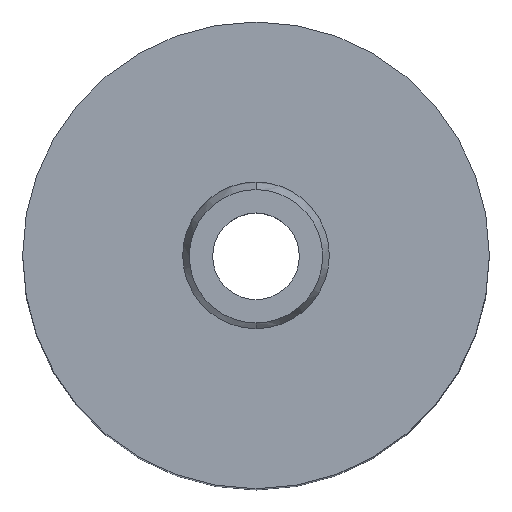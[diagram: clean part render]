
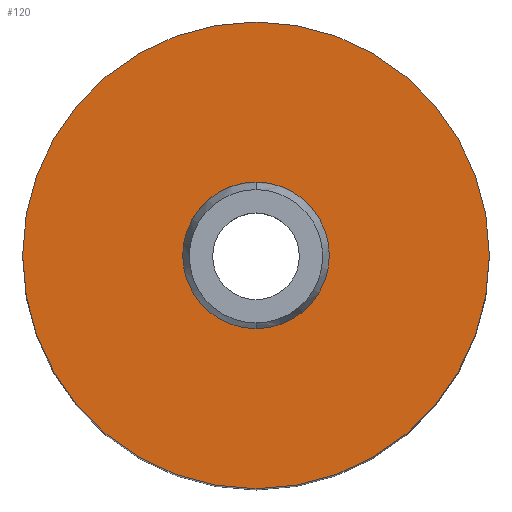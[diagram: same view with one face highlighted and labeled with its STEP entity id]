
A CAD part, top view. The second image highlights one B-rep face of the part: STEP entity #120.
In plain terms, the highlighted planar face has unit normal (0, 0, 1).
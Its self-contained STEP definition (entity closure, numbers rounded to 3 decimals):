
#104=PLANE('',#373);
#109=FACE_BOUND('',#163,.T.);
#110=FACE_BOUND('',#164,.T.);
#120=ADVANCED_FACE('',(#109,#110),#104,.T.);
#163=EDGE_LOOP('',(#221,#222));
#164=EDGE_LOOP('',(#223,#224));
#180=CIRCLE('',#361,35.);
#181=CIRCLE('',#363,35.);
#185=CIRCLE('',#369,11.);
#186=CIRCLE('',#371,11.);
#221=ORIENTED_EDGE('',*,*,#298,.F.);
#222=ORIENTED_EDGE('',*,*,#299,.F.);
#223=ORIENTED_EDGE('',*,*,#306,.T.);
#224=ORIENTED_EDGE('',*,*,#304,.T.);
#273=VERTEX_POINT('',#498);
#276=VERTEX_POINT('',#503);
#279=VERTEX_POINT('',#515);
#280=VERTEX_POINT('',#517);
#298=EDGE_CURVE('',#276,#273,#180,.T.);
#299=EDGE_CURVE('',#273,#276,#181,.T.);
#304=EDGE_CURVE('',#280,#279,#185,.T.);
#306=EDGE_CURVE('',#279,#280,#186,.T.);
#361=AXIS2_PLACEMENT_3D('',#504,#406,#407);
#363=AXIS2_PLACEMENT_3D('',#506,#410,#411);
#369=AXIS2_PLACEMENT_3D('',#516,#423,#424);
#371=AXIS2_PLACEMENT_3D('',#520,#428,#429);
#373=AXIS2_PLACEMENT_3D('',#522,#432,#433);
#406=DIRECTION('',(0.,0.,-1.));
#407=DIRECTION('',(1.,0.,0.));
#410=DIRECTION('',(0.,0.,-1.));
#411=DIRECTION('',(-1.,0.,0.));
#423=DIRECTION('',(0.,0.,-1.));
#424=DIRECTION('',(1.,0.,0.));
#428=DIRECTION('',(0.,0.,-1.));
#429=DIRECTION('',(-1.,0.,0.));
#432=DIRECTION('',(0.,0.,1.));
#433=DIRECTION('',(-1.,0.,0.));
#498=CARTESIAN_POINT('',(0.,35.,110.));
#503=CARTESIAN_POINT('',(0.,-35.,110.));
#504=CARTESIAN_POINT('',(0.,0.,110.));
#506=CARTESIAN_POINT('',(0.,0.,110.));
#515=CARTESIAN_POINT('',(0.,11.,110.));
#516=CARTESIAN_POINT('',(0.,0.,110.));
#517=CARTESIAN_POINT('',(0.,-11.,110.));
#520=CARTESIAN_POINT('',(0.,0.,110.));
#522=CARTESIAN_POINT('',(0.,0.,110.));
